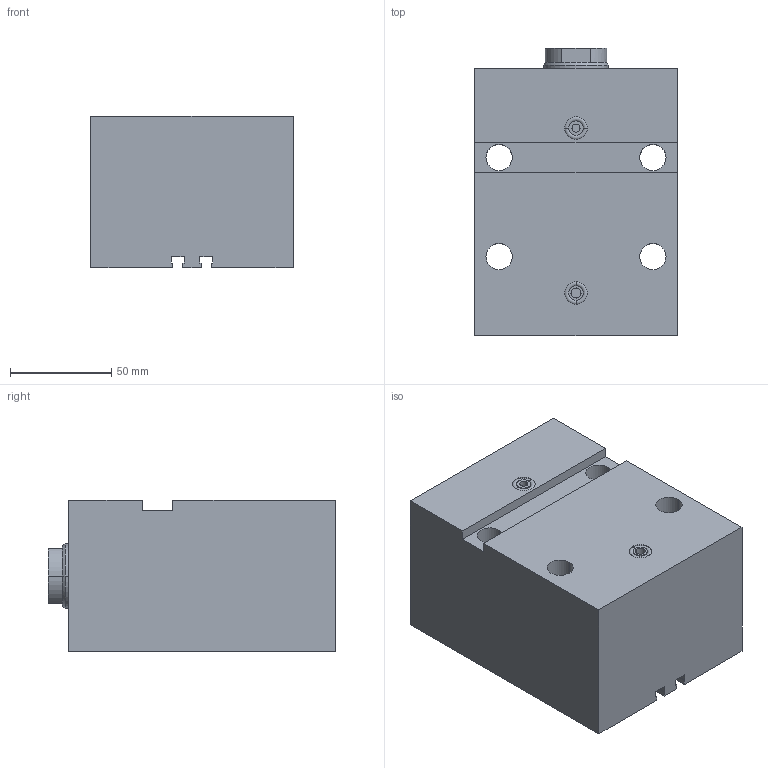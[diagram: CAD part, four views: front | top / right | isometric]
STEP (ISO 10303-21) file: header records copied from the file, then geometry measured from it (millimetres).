
FILE_DESCRIPTION (( 'STEP AP203' ), '1' );
FILE_NAME ('GERMA_Blockzylinder_704-050-050.STEP', '2016-07-23T13:30:22', ( '' ), ( '' ), 'SwSTEP 2.0', 'SolidWorks 2015', '' );
FILE_SCHEMA (( 'CONFIG_CONTROL_DESIGN' ));
Length unit declared in the file: millimetre
Products named in the file (3): GH-700-050_GH-704-050-050; Kolben_MT 70x-050_Kolben_MT DU.50-Hub50-IG; GERMA_Blockzylinder_704-050-050
Assembly tree (2 placements, depth 2):
  GERMA_Blockzylinder_704-050-050
    GH-700-050_GH-704-050-050
    Kolben_MT 70x-050_Kolben_MT DU.50-Hub50-IG
Bounding box: 100 x 142 x 75 mm (x, y, z)
Volume: 874186.4 mm3; surface area: 116087.8 mm2
Topology: 2 solids, 2 shells, 104 faces, 242 edges, 150 vertices
Faces by surface type: cylinder 43, plane 43, cone 14, torus 4
Entity records: 3246 total; most frequent: DIRECTION 555, CARTESIAN_POINT 495, ORIENTED_EDGE 472, EDGE_CURVE 236, AXIS2_PLACEMENT_3D 210, VERTEX_POINT 150, LINE 135, VECTOR 135
